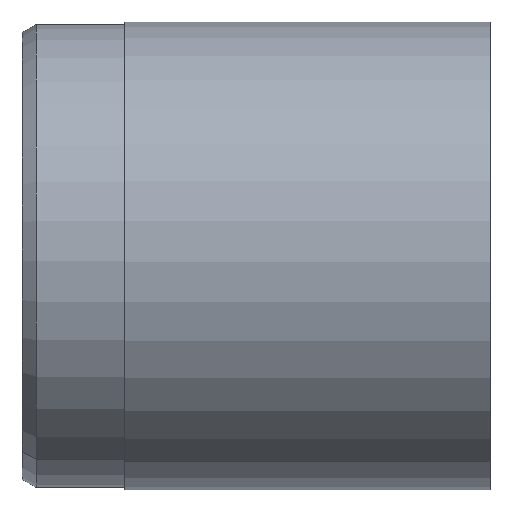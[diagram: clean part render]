
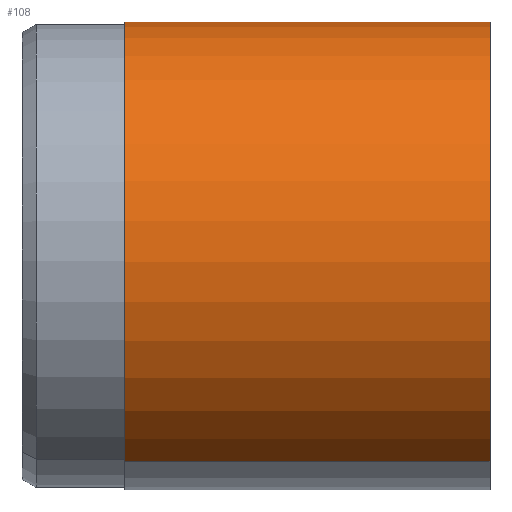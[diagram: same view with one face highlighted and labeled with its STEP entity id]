
A CAD part, left-side view. The second image highlights one B-rep face of the part: STEP entity #108.
In plain terms, the highlighted cylindrical face has radius 5 mm (diameter 10 mm), a partial arc.
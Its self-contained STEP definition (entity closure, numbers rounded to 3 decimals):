
#52=CARTESIAN_POINT('Axis2P3D Location',(0.,5.,0.)) ;
#61=CARTESIAN_POINT('Vertex',(2.397,7.8,4.388)) ;
#63=CARTESIAN_POINT('Vertex',(-2.397,7.8,-4.388)) ;
#66=CARTESIAN_POINT('Line Origine',(2.397,3.9,4.388)) ;
#70=CARTESIAN_POINT('Vertex',(2.397,0.,4.388)) ;
#77=CARTESIAN_POINT('Vertex',(-2.397,0.,-4.388)) ;
#80=CARTESIAN_POINT('Line Origine',(-2.397,3.9,-4.388)) ;
#92=CARTESIAN_POINT('Axis2P3D Location',(0.,7.8,0.)) ;
#97=CARTESIAN_POINT('Axis2P3D Location',(0.,0.,0.)) ;
#53=DIRECTION('Axis2P3D Direction',(0.,1.,0.)) ;
#54=DIRECTION('Axis2P3D XDirection',(0.479,-0.,0.878)) ;
#67=DIRECTION('Vector Direction',(0.,1.,0.)) ;
#81=DIRECTION('Vector Direction',(0.,1.,0.)) ;
#93=DIRECTION('Axis2P3D Direction',(0.,1.,0.)) ;
#98=DIRECTION('Axis2P3D Direction',(0.,1.,0.)) ;
#55=AXIS2_PLACEMENT_3D('Cylinder Axis2P3D',#52,#53,#54) ;
#94=AXIS2_PLACEMENT_3D('Circle Axis2P3D',#92,#93,$) ;
#99=AXIS2_PLACEMENT_3D('Circle Axis2P3D',#97,#98,$) ;
#103=ORIENTED_EDGE('',*,*,#96,.F.) ;
#104=ORIENTED_EDGE('',*,*,#84,.T.) ;
#105=ORIENTED_EDGE('',*,*,#101,.T.) ;
#106=ORIENTED_EDGE('',*,*,#72,.F.) ;
#68=VECTOR('Line Direction',#67,1.) ;
#82=VECTOR('Line Direction',#81,1.) ;
#108=ADVANCED_FACE('\X2\FF8AFF9FFF70FF82\X0\ \X2\FF8EFF9EFF83FF9EFF68FF70\X0\',(#107),#56,.T.) ;
#95=CIRCLE('generated circle',#94,5.) ;
#100=CIRCLE('generated circle',#99,5.) ;
#56=CYLINDRICAL_SURFACE('generated cylinder',#55,5.) ;
#72=EDGE_CURVE('',#62,#71,#69,.F.) ;
#84=EDGE_CURVE('',#64,#78,#83,.F.) ;
#96=EDGE_CURVE('',#64,#62,#95,.T.) ;
#101=EDGE_CURVE('',#78,#71,#100,.T.) ;
#102=EDGE_LOOP('',(#103,#104,#105,#106)) ;
#107=FACE_OUTER_BOUND('',#102,.T.) ;
#69=LINE('Line',#66,#68) ;
#83=LINE('Line',#80,#82) ;
#62=VERTEX_POINT('',#61) ;
#64=VERTEX_POINT('',#63) ;
#71=VERTEX_POINT('',#70) ;
#78=VERTEX_POINT('',#77) ;
